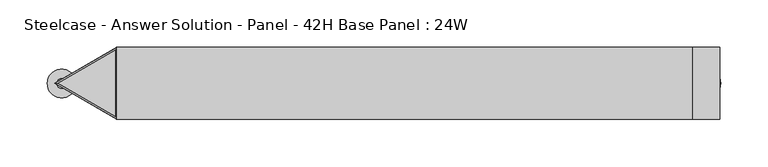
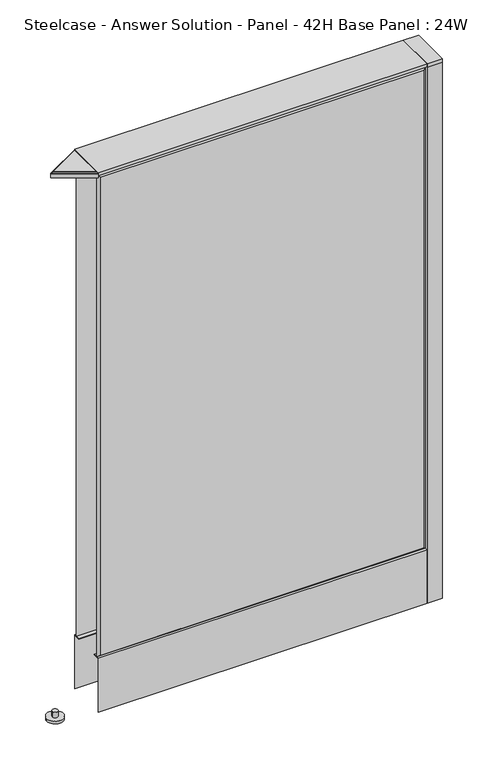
"""IFC4 building model written with IfcOpenShell, lengths in millimetres: furniture geometry, Steelcase - Answer Solution - Panel - 42H Base Panel : 24W."""

from ifc_helpers import new_model, si_unit, point, frame, frame_2d, origin, place, context, project, spatial, polyline, circle_curve, ellipse_curve, trimmed, segment, composite_curve, outline, extrude, faceted_brep, source, transform, mapped, element, save
from ifc_brep_helpers import plane_surface, cylinder_surface, advanced_brep


def steelcase_answer_solution_panel_42h_base_panel_24w_c61d024c(model_context):
    return source(origin(), model_context, "Body", "SolidModel", [
        extrude(outline(composite_curve([segment(trimmed(circle_curve(frame_2d((319.024, -0.0039657)), 5.08), [point((324.104, -0.0039657))], [point((313.944, -0.0039657))], False, "CARTESIAN"), True, "CONTINUOUS"), segment(trimmed(circle_curve(frame_2d((319.024, -0.0039657)), 5.08), [point((313.944, -0.0039657))], [point((324.104, -0.0039657))], False, "CARTESIAN"), True, "CONTINUOUS")], self_intersect=False)), frame((0.0, 0.0, 5.0799671), z_axis=(0.0, 0.0, 1.0), x_axis=(1.0, 0.0, 0.0)), (0.0, 0.0, 1.0), 10.414),
        extrude(outline(composite_curve([segment(trimmed(circle_curve(frame_2d((319.024, -0.0039657)), 15.24), [point((334.264, -0.0039657))], [point((303.784, -0.0039657))], False, "CARTESIAN"), True, "CONTINUOUS"), segment(trimmed(circle_curve(frame_2d((319.024, -0.0039657)), 15.24), [point((303.784, -0.0039657))], [point((334.264, -0.0039657))], False, "CARTESIAN"), True, "CONTINUOUS")], self_intersect=False)), frame((0.0, 0.0, -3.29e-05), z_axis=(0.0, 0.0, 1.0), x_axis=(1.0, 0.0, 0.0)), (0.0, 0.0, 1.0), 5.08),
        extrude(outline(polyline([(333.375, -38.1039851), (304.8, -38.1039851), (304.8, 38.0960149), (333.375, 38.0960149), (333.375, -38.1039851)])), frame((0.0, 0.0, 1065.8348), z_axis=(0.0, 0.0, 1.0), x_axis=(1.0, 0.0, 0.0)), (0.0, 0.0, 1.0), 7.3151671),
        extrude(outline(polyline([(333.375, -38.1039851), (304.8, -38.1039851), (304.8, 38.0960149), (333.375, 38.0960149), (333.375, -38.1039851)])), frame((0.0, 0.0, 15.4939671), z_axis=(0.0, 0.0, 1.0), x_axis=(1.0, 0.0, 0.0)), (0.0, 0.0, 1.0), 1050.3408329),
        extrude(outline(composite_curve([segment(trimmed(circle_curve(frame_2d((-363.22, -0.0039657)), 5.08), [point((-368.3, -0.0039657))], [point((-358.14, -0.0039657))], False, "CARTESIAN"), True, "CONTINUOUS"), segment(trimmed(circle_curve(frame_2d((-363.22, -0.0039657)), 5.08), [point((-358.14, -0.0039657))], [point((-368.3, -0.0039657))], False, "CARTESIAN"), True, "CONTINUOUS")], self_intersect=False)), frame((0.0, 0.0, 5.0799671), z_axis=(0.0, 0.0, 1.0), x_axis=(1.0, 0.0, 0.0)), (0.0, 0.0, 1.0), 10.414),
        extrude(outline(composite_curve([segment(trimmed(circle_curve(frame_2d((-363.22, -0.0039657)), 15.24), [point((-378.46, -0.0039657))], [point((-347.98, -0.0039657))], False, "CARTESIAN"), True, "CONTINUOUS"), segment(trimmed(circle_curve(frame_2d((-363.22, -0.0039657)), 15.24), [point((-347.98, -0.0039657))], [point((-378.46, -0.0039657))], False, "CARTESIAN"), True, "CONTINUOUS")], self_intersect=False)), frame((0.0, 0.0, -3.29e-05), z_axis=(0.0, 0.0, 1.0), x_axis=(1.0, 0.0, 0.0)), (0.0, 0.0, 1.0), 5.08),
        extrude(outline(polyline([(-366.9342999, 0.0350529), (-306.676658, 34.82482), (-306.676658, -34.7718495), (-366.9342999, 0.0350529)])), frame((0.0, 0.0, 1071.2704), z_axis=(0.0, 0.0, 1.0), x_axis=(1.0, 0.0, 0.0)), (0.0, 0.0, 1.0), 1.8795671),
        extrude(outline(polyline([(-304.7716604, -38.072219), (-370.7435962, 0.035459), (-304.7716604, 38.1243768), (-304.7716604, -38.072219)])), frame((0.0, 0.0, 1062.9899671), z_axis=(0.0, 0.0, 1.0), x_axis=(1.0, 0.0, 0.0)), (0.0, 0.0, 1.0), 8.2804329),
        advanced_brep(
        [(-306.6766603, 34.82482, 1073.1499671), (-304.7718302, 38.1240827, 1071.2704), (-370.7432567, 0.035459, 1071.2704), (-366.9342999, 0.0350529, 1073.1499671), (-306.6766603, 34.82482, 1071.2704), (-366.9342999, 0.0350529, 1071.2704), (-304.7718277, -38.0719249, 1071.2704), (-306.676658, -34.7718495, 1073.1499671), (-306.676658, -34.7718495, 1071.2704)],
        [
            (0, 1, ellipse_curve(frame((-306.6766603, 34.82482, 1071.2449671), z_axis=(-0.8660254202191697, 0.49999997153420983, 0.0), x_axis=(0.4999999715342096, 0.8660254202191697, 0.0)), 3.81, 1.905)),
            (1, 2),
            (2, 3, ellipse_curve(frame((-366.9342999, 0.0350529, 1071.2449671), z_axis=(0.00010661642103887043, 0.9999999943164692, 0.0), x_axis=(0.9999999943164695, -0.00010661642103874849, 0.0)), 3.8092964, 1.905)),
            (3, 0),
            (4, 0),
            (3, 5),
            (5, 4),
            (2, 6),
            (6, 7, ellipse_curve(frame((-306.676658, -34.7718495, 1071.2449671), z_axis=(-0.8660787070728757, -0.49990766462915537, 0.0), x_axis=(-0.4999076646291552, 0.8660787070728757, 0.0)), 3.8107039, 1.905)),
            (7, 3),
            (7, 8),
            (8, 5),
            (1, 6),
            (8, 4),
            (0, 7),
        ],
        [
            cylinder_surface(frame((-306.6120399, 34.8621286, 1071.2449671), z_axis=(0.8660253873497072, 0.5000000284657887, 0.0), x_axis=(0.5000000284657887, -0.8660253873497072, 0.0)), 1.905),
            plane_surface(frame((-306.6766603, 34.82482, 1073.1499671), z_axis=(0.5000000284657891, -0.866025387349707, 0.0), x_axis=(-0.866025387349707, -0.5000000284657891, 0.0))),
            cylinder_surface(frame((-366.9988965, 0.0723661, 1071.2449671), z_axis=(-0.8659187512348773, 0.5001846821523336, 0.0), x_axis=(0.5001846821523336, 0.8659187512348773, 0.0)), 1.905),
            plane_surface(frame((-366.9342999, 0.0350529, 1073.1499671), z_axis=(0.5001846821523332, 0.8659187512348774, 0.0), x_axis=(0.8659187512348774, -0.5001846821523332, 0.0))),
            plane_surface(frame((-306.676658, -34.7718495, 1071.2704), z_axis=(0.0, 0.0, -1.0000000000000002), x_axis=(-3.2869464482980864e-08, 0.9999999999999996, 0.0))),
            cylinder_surface(frame((-306.676658, -34.8464851, 1071.2449671), z_axis=(3.286946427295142e-08, -0.9999999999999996, 0.0), x_axis=(-0.9999999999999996, -3.286946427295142e-08, 0.0)), 1.905),
            plane_surface(frame((-306.676658, -34.7718495, 1073.1499671), z_axis=(-0.9999999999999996, -3.2869464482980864e-08, 0.0), x_axis=(-3.2869464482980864e-08, 0.9999999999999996, 0.0))),
        ],
        [
            (0, [[1, 2, 3, 4]]),
            (1, [[5, -4, 6, 7]]),
            (2, [[-3, 8, 9, 10]]),
            (3, [[-6, -10, 11, 12]]),
            (4, [[13, -8, -2], [-7, -12, 14]]),
            (5, [[-9, -13, -1, 15]]),
            (6, [[-11, -15, -5, -14]]),
        ],
    ),
        faceted_brep([(-299.974, -38.1635011, 1061.974), (-299.974, -38.1635011, 125.476), (299.974, -38.1635011, 125.476), (299.974, -38.1635011, 1061.974), (-304.8, -33.3375011, 1066.8), (304.8, -33.3375011, 1066.8), (304.8, -33.3375011, 120.65), (-304.8, -33.3375011, 120.65)], [[[0, 1, 2, 3]], [[4, 5, 6, 7]], [[4, 0, 3, 5]], [[5, 3, 2, 6]], [[6, 2, 1, 7]], [[7, 1, 0, 4]]]),
        faceted_brep([(299.974, 38.1635011, 1061.974), (299.974, 38.1635011, 125.476), (-299.974, 38.1635011, 125.476), (-299.974, 38.1635011, 1061.974), (304.8, 33.3375011, 1066.8), (-304.8, 33.3375011, 1066.8), (-304.8, 33.3375011, 120.65), (304.8, 33.3375011, 120.65)], [[[0, 1, 2, 3]], [[4, 5, 6, 7]], [[4, 0, 3, 5]], [[5, 3, 2, 6]], [[6, 2, 1, 7]], [[7, 1, 0, 4]]]),
        extrude(outline(polyline([(304.8, -38.1000194), (-304.8, -38.1000194), (-304.8, 38.1000194), (304.8, 38.1000194), (304.8, -38.1000194)])), frame((0.0, 0.0, 1066.8), z_axis=(0.0, 0.0, 1.0), x_axis=(1.0, 0.0, 0.0)), (0.0, 0.0, 1.0), 6.35),
        extrude(outline(polyline([(-25.4000011, 119.8575157), (-37.3075215, 119.8575157), (-37.3075215, 15.494), (-38.1000194, 15.494), (-38.1000194, 120.65), (-25.4000011, 120.65), (-25.4000011, 119.8575157)])), frame((-304.8, 0.0, 0.0), z_axis=(1.0, 0.0, 0.0), x_axis=(0.0, 1.0, 0.0)), (0.0, 0.0, 1.0), 609.6),
        extrude(outline(polyline([(25.4000011, 119.8575157), (25.4000011, 120.65), (38.1000194, 120.65), (38.1000194, 15.494), (37.3075215, 15.494), (37.3075215, 119.8575157), (25.4000011, 119.8575157)])), frame((-304.8, 0.0, 0.0), z_axis=(1.0, 0.0, 0.0), x_axis=(0.0, 1.0, 0.0)), (0.0, 0.0, 1.0), 609.6),
    ])


if __name__ == "__main__":
    model = new_model("IFC4")
    model_context = context("Model", 3, world=origin())
    ifc_project = project(units=[si_unit("LENGTHUNIT", "METRE", prefix="MILLI")], contexts=[model_context])
    site = spatial("IfcSite", under=ifc_project)
    building = spatial("IfcBuilding", under=site)
    placement = place(None, origin())
    steelcase_answer_solution_panel_42h_base_panel_24w_shape = steelcase_answer_solution_panel_42h_base_panel_24w_c61d024c(model_context)
    element("IfcFurniture", 1, ObjectType="Steelcase - Answer Solution - Panel - 42H Base Panel : 24W", at=placement, inside=building, context=model_context, shape_type="MappedRepresentation", body=[
        mapped(steelcase_answer_solution_panel_42h_base_panel_24w_shape, transform((0.0, 0.0, 0.0), x_axis=(1.0, 0.0, 0.0), y_axis=(0.0, 1.0, 0.0), z_axis=(0.0, 0.0, 1.0))),
    ])
    save(model, "model.ifc")
